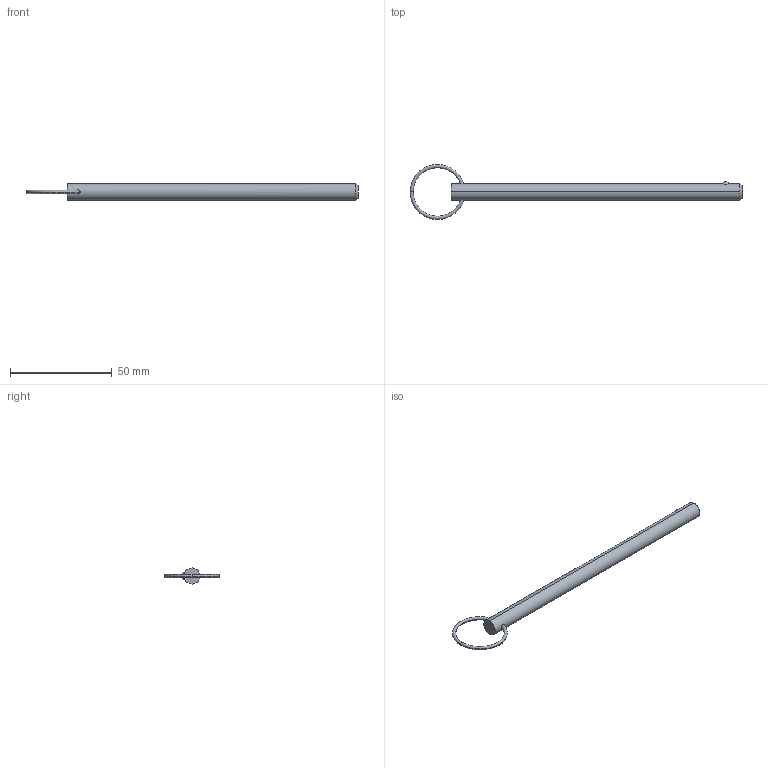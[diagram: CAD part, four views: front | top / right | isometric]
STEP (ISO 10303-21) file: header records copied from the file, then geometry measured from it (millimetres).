
FILE_DESCRIPTION (( 'STEP AP203' ), '1' );
FILE_NAME ('33012.W3150.step', '2024-11-01T14:09:07', ( '' ), ( '' ), 'SwSTEP 2.0', 'SolidWorks 2019', '' );
FILE_SCHEMA (( 'CONFIG_CONTROL_DESIGN' ));
Length unit declared in the file: millimetre
Products named in the file (3): Part2_33012.W3150; Part1_33012.W3150; 33012.W3150
Assembly tree (2 placements, depth 2):
  33012.W3150
    Part1_33012.W3150
    Part2_33012.W3150
Bounding box: 163.13 x 26.99 x 7.94 mm (x, y, z)
Volume: 7202 mm3; surface area: 4093.6 mm2
Topology: 2 solids, 2 shells, 16 faces, 31 edges, 18 vertices
Faces by surface type: torus 8, sphere 2, cone 2, cylinder 2, plane 2
Entity records: 829 total; most frequent: CARTESIAN_POINT 186, DIRECTION 88, ORIENTED_EDGE 62, AXIS2_PLACEMENT_3D 42, EDGE_CURVE 31, PERSON_AND_ORGANIZATION 26, CIRCLE 21, LOCAL_TIME 19
